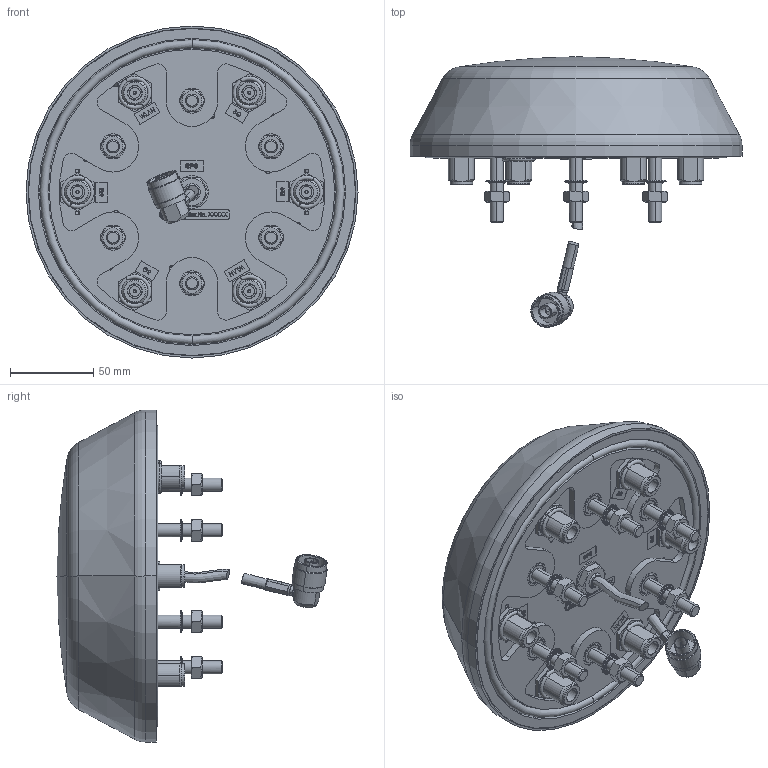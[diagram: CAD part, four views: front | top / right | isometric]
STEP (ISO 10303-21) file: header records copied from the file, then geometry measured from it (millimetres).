
FILE_DESCRIPTION (( 'STEP AP214' ), '1' );
FILE_NAME ('100-58-10-05.52 3D-Modell Kunde.STEP', '2019-05-10T07:16:30', ( '' ), ( '' ), 'SwSTEP 2.0', 'SolidWorks 2015', '' );
FILE_SCHEMA (( 'AUTOMOTIVE_DESIGN' ));
Length unit declared in the file: millimetre
Products named in the file (25): DI-14.25 O-Ring gelb flach; 100-58-10-05.52 3D-Modell Kunde; DI-14.20 O-Ring transparent flach; Kabel_d6.5_L15; DI-200.007; S050817-Mutter; Kabel_d6.5_L40; ETK-GPS; DI-14.22 O-Ring rot flach; Stecker_abgewinkelt; FS0137-10.5-03; M-0934-M8-03; SCH-Schnorr-084-03; GEH-200.001; S050817; ETK-WLAN; DI-200.007-ORing; M-0439-M8-03; SR-0603-080-050-03; ETK-5G; GP-200.452(b); ETK-ASN neu; DT-19.001; M-0439-M10-03; SchrSchl_blau_6,4_3,2 Abschnitt
Assembly tree (62 placements, depth 2):
  100-58-10-05.52 3D-Modell Kunde
    GP-200.452(b)
    DI-200.007
    DI-200.007-ORing
    GEH-200.001
    S050817  x6
    SR-0603-080-050-03  x6
    M-0934-M8-03  x6
    M-0439-M8-03  x6
    SCH-Schnorr-084-03  x6
    ETK-ASN neu
    S050817-Mutter  x6
    ETK-GPS
    ETK-5G  x4
    ETK-WLAN  x2
    Kabel_d6.5_L15
    Kabel_d6.5_L40
    Stecker_abgewinkelt
    SchrSchl_blau_6,4_3,2 Abschnitt
    DI-14.22 O-Ring rot flach  x4
    DI-14.25 O-Ring gelb flach  x2
    DI-14.20 O-Ring transparent flach
    DT-19.001
    FS0137-10.5-03
    M-0439-M10-03
Bounding box: 200 x 162.95 x 200 mm (x, y, z)
Volume: 492664.7 mm3; surface area: 284296.7 mm2
Topology: 62 solids, 62 shells, 3852 faces, 10455 edges, 6838 vertices
Faces by surface type: plane 2711, cylinder 500, cone 298, bspline 211, torus 132
Entity records: 55027 total; most frequent: CARTESIAN_POINT 16496, ORIENTED_EDGE 7336, DIRECTION 6506, EDGE_CURVE 3668, VERTEX_POINT 2400, AXIS2_PLACEMENT_3D 2258, VECTOR 1990, LINE 1990
